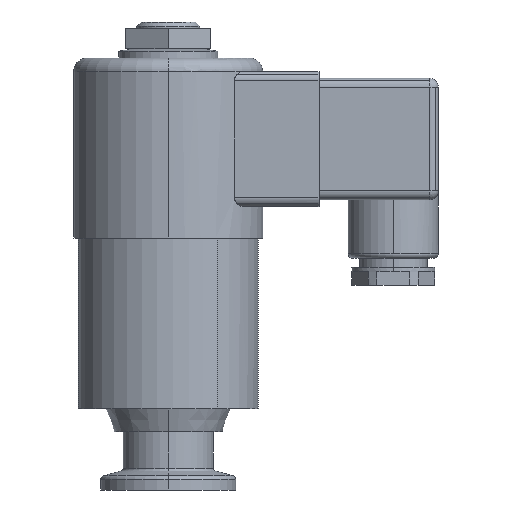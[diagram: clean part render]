
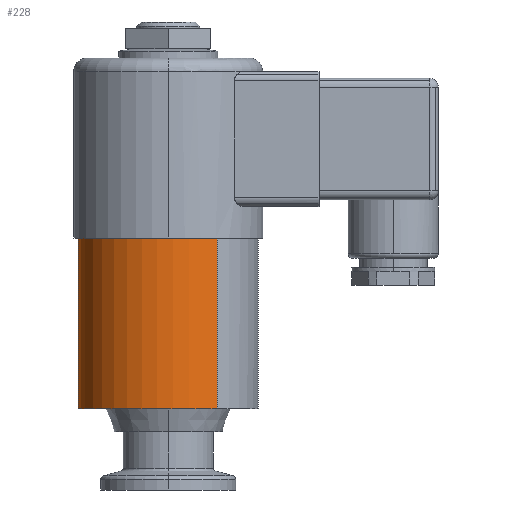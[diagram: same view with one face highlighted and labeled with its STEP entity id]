
A CAD part, left-side view. The second image highlights one B-rep face of the part: STEP entity #228.
In plain terms, the highlighted cylindrical face has radius 20 mm (diameter 40 mm), a partial arc.
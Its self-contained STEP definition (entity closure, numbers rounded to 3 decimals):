
#228=ADVANCED_FACE('',(#421),#363,.T.);
#363=CYLINDRICAL_SURFACE('',#2321,20.);
#421=FACE_OUTER_BOUND('',#544,.T.);
#544=EDGE_LOOP('',(#858,#859,#860,#861,#862));
#692=CIRCLE('',#2319,20.);
#693=CIRCLE('',#2320,20.);
#858=ORIENTED_EDGE('',*,*,#1711,.F.);
#859=ORIENTED_EDGE('',*,*,#1712,.F.);
#860=ORIENTED_EDGE('',*,*,#1713,.T.);
#861=ORIENTED_EDGE('',*,*,#1714,.F.);
#862=ORIENTED_EDGE('',*,*,#1715,.T.);
#1506=VERTEX_POINT('',#3368);
#1507=VERTEX_POINT('',#3369);
#1508=VERTEX_POINT('',#3371);
#1509=VERTEX_POINT('',#3373);
#1510=VERTEX_POINT('',#3375);
#1711=EDGE_CURVE('',#1506,#1507,#2033,.T.);
#1712=EDGE_CURVE('',#1508,#1506,#2034,.T.);
#1713=EDGE_CURVE('',#1508,#1509,#692,.T.);
#1714=EDGE_CURVE('',#1510,#1509,#2035,.T.);
#1715=EDGE_CURVE('',#1510,#1507,#693,.T.);
#2033=LINE('',#3367,#2175);
#2034=LINE('',#3370,#2176);
#2035=LINE('',#3374,#2177);
#2175=VECTOR('',#2625,1.);
#2176=VECTOR('',#2626,1.);
#2177=VECTOR('',#2629,1.);
#2319=AXIS2_PLACEMENT_3D('',#3372,#2627,#2628);
#2320=AXIS2_PLACEMENT_3D('',#3376,#2630,#2631);
#2321=AXIS2_PLACEMENT_3D('',#3377,#2632,#2633);
#2625=DIRECTION('',(0.,0.,1.));
#2626=DIRECTION('',(0.,0.,1.));
#2627=DIRECTION('',(0.,0.,1.));
#2628=DIRECTION('',(0.838,0.545,0.));
#2629=DIRECTION('',(0.,0.,-1.));
#2630=DIRECTION('',(0.,0.,-1.));
#2631=DIRECTION('',(-1.,0.,0.));
#2632=DIRECTION('',(0.,0.,1.));
#2633=DIRECTION('',(-0.838,-0.545,0.));
#3367=CARTESIAN_POINT('',(16.763,10.909,48.));
#3368=CARTESIAN_POINT('',(16.763,10.909,48.));
#3369=CARTESIAN_POINT('',(16.763,10.909,56.));
#3370=CARTESIAN_POINT('',(16.763,10.909,18.));
#3371=CARTESIAN_POINT('',(16.763,10.909,18.));
#3372=CARTESIAN_POINT('',(0.,0.,18.));
#3373=CARTESIAN_POINT('',(-16.763,-10.909,18.));
#3374=CARTESIAN_POINT('',(-16.763,-10.909,56.));
#3375=CARTESIAN_POINT('',(-16.763,-10.909,56.));
#3376=CARTESIAN_POINT('',(0.,0.,56.));
#3377=CARTESIAN_POINT('',(0.,0.,0.));
